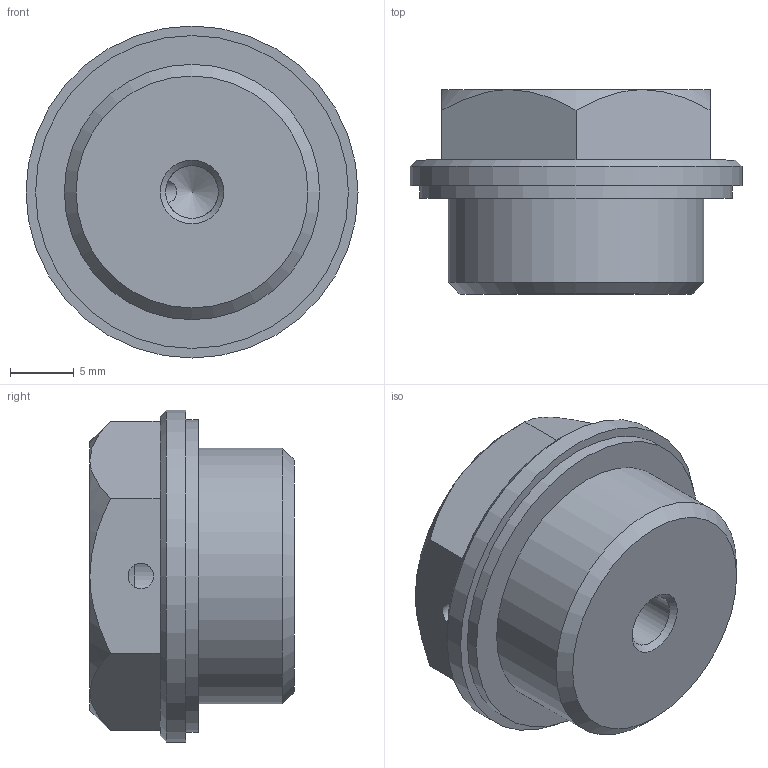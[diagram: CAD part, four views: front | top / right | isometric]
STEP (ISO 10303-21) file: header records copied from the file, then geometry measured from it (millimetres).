
FILE_DESCRIPTION( ( 'STEP AP203' ), '1' );
FILE_NAME( 'C:/Temp/Ganter_Step_05_03_2020/data/3_5/gn742/gn742_2/Threaded plug GN 742-26-M20x1,5-AS-2.stp', '2020-03-12T13:39:21', ( 'License CC BY-ND 4.0' ), ( 'CADENAS' ), ' ', 'PARTsolutions', ' ' );
FILE_SCHEMA( ( 'CONFIG_CONTROL_DESIGN' ) );
Length unit declared in the file: millimetre
Products named in the file (1): _Threaded plug GN 742-26-M20x1,5-AS-2
Bounding box: 26 x 16 x 26 mm (x, y, z)
Volume: 5734.3 mm3; surface area: 2299.8 mm2
Topology: 1 solids, 1 shells, 53 faces, 131 edges, 84 vertices
Faces by surface type: plane 38, cone 10, cylinder 5
Full cylindrical faces by diameter (mm): 2 x1, 4.134 x1, 20 x1, 24.5 x1, 26 x1
Entity records: 1621 total; most frequent: CARTESIAN_POINT 381, ORIENTED_EDGE 238, DIRECTION 231, EDGE_CURVE 119, LINE 87, VECTOR 87, VERTEX_POINT 82, AXIS2_PLACEMENT_3D 72
